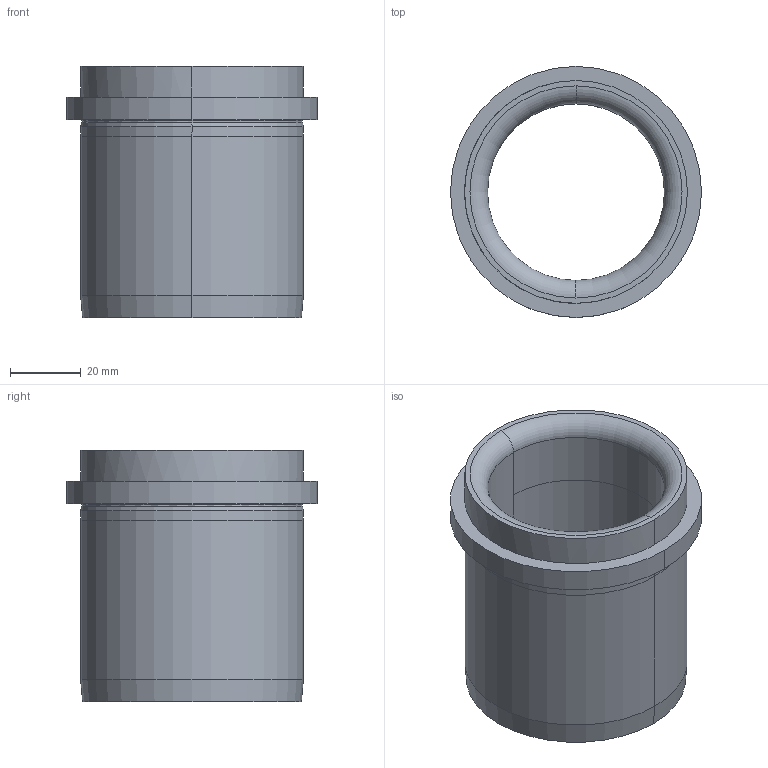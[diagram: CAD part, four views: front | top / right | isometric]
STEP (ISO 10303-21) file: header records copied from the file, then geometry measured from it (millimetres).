
FILE_DESCRIPTION(('CATIA V5 STEP'),'2;1');
FILE_NAME('\\GSBFILE\data\URETIM\3D DATALAR\Step Dosyaları\Kılavuz Elemanları\G211-02-050-071.stp','2020-07-07T05:39:47+00:00',('none'),('none'),'CATIA Version 5-6 Release 2019 SP3','CATIA V5 STEP AP203 v1','none');
FILE_SCHEMA(('CONFIG_CONTROL_DESIGN'));
Length unit declared in the file: millimetre
Products named in the file (1): Part1
Bounding box: 71 x 71 x 71 mm (x, y, z)
Volume: 85840.3 mm3; surface area: 28903.2 mm2
Topology: 1 solids, 1 shells, 32 faces, 67 edges, 39 vertices
Faces by surface type: cylinder 14, torus 8, cone 6, plane 4
Entity records: 876 total; most frequent: CARTESIAN_POINT 203, ORIENTED_EDGE 134, DIRECTION 107, EDGE_CURVE 67, AXIS2_PLACEMENT_3D 64, CIRCLE 41, VERTEX_POINT 39, EDGE_LOOP 36
